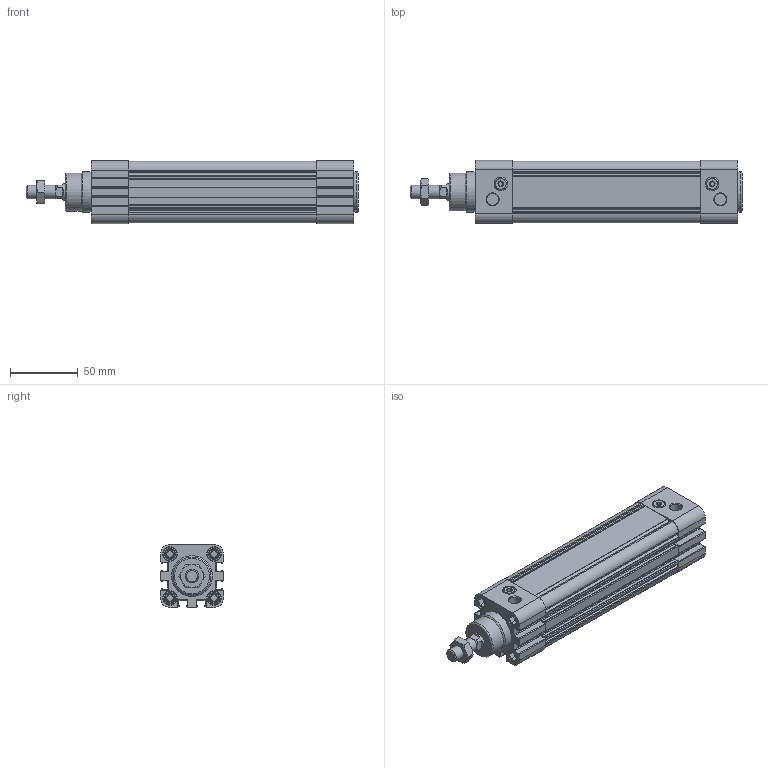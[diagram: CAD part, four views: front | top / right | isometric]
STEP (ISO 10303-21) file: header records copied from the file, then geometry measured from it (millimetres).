
FILE_DESCRIPTION( ( 'STEP AP214' ), '1' );
FILE_NAME( 'C:/Users/emc02044/Desktop/FVBC/FVBC32X100-S.stp', '2026-07-20T06:27:06', ( 'License CC BY-ND 4.0' ), ( 'CADENAS' ), ' ', 'PARTsolutions', ' ' );
FILE_SCHEMA( ( 'AUTOMOTIVE_DESIGN { 1 0 10303 214 1 1 1 1 }' ) );
Length unit declared in the file: millimetre
Products named in the file (3): FVBC32X100-0-S()(0); _FVB32x100()_fvbc_body ; _32X100-0_rod
Assembly tree (2 placements, depth 2):
  FVBC32X100-0-S()(0)
    _FVB32x100()_fvbc_body 
    _32X100-0_rod
Bounding box: 245 x 46.5 x 46.58 mm (x, y, z)
Volume: 287719.3 mm3; surface area: 98610.5 mm2
Topology: 2 solids, 2 shells, 499 faces, 1252 edges, 807 vertices
Faces by surface type: plane 284, cylinder 172, cone 32, torus 11
Full cylindrical faces by diameter (mm): 4.917 x8, 8.4 x8, 8.566 x2, 9.7 x8, 10 x4, 12 x3, 20 x2, 28 x1, 30 x2, 32 x2
Entity records: 18650 total; most frequent: CARTESIAN_POINT 2684, DIRECTION 2542, ORIENTED_EDGE 2352, EDGE_CURVE 1176, AXIS2_PLACEMENT_3D 896, VERTEX_POINT 798, LINE 750, VECTOR 750
